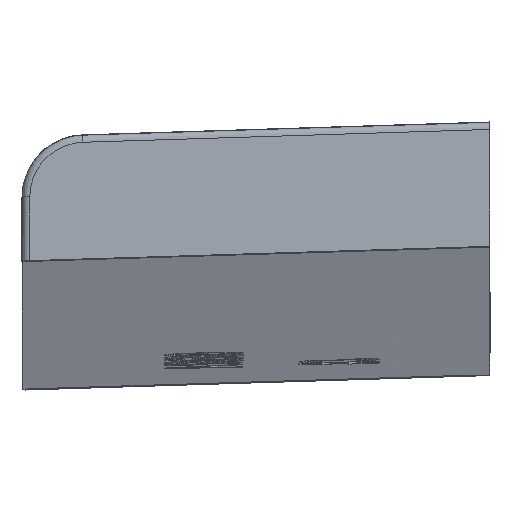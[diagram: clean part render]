
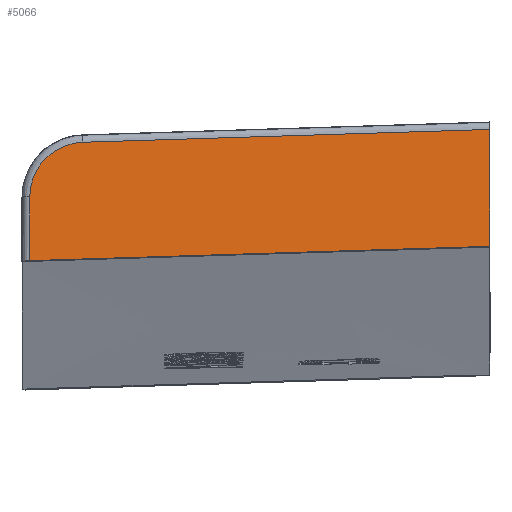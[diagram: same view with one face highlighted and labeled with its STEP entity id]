
A CAD part, left-side view. The second image highlights one B-rep face of the part: STEP entity #5066.
In plain terms, the highlighted planar face has unit normal (-0.999, 0, 0.043).
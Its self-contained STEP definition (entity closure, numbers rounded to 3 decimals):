
#116=PLANE('',#5180);
#389=FACE_OUTER_BOUND('',#686,.T.);
#686=EDGE_LOOP('',(#4523,#4524,#4525,#4526,#4527,#4528,#4529));
#936=LINE('',#14986,#1196);
#953=LINE('',#15724,#1213);
#954=LINE('',#15733,#1214);
#955=LINE('',#15734,#1215);
#1196=VECTOR('',#5562,10.);
#1213=VECTOR('',#5611,10.);
#1214=VECTOR('',#5612,10.);
#1215=VECTOR('',#5613,10.);
#1719=B_SPLINE_CURVE_WITH_KNOTS('',3,(#15604,#15605,#15606,#15607,#15608),
 .UNSPECIFIED.,.F.,.F.,(4,1,4),(-0.215,-0.123,0.),
 .UNSPECIFIED.);
#1725=B_SPLINE_CURVE_WITH_KNOTS('',3,(#15690,#15691,#15692,#15693),
 .UNSPECIFIED.,.F.,.F.,(4,4),(-1.047,-0.001),
 .UNSPECIFIED.);
#1727=B_SPLINE_CURVE_WITH_KNOTS('',3,(#15726,#15727,#15728,#15729,#15730,
#15731,#15732),.UNSPECIFIED.,.F.,.F.,(4,3,4),(0.01,0.05,
1.192),.UNSPECIFIED.);
#2211=VERTEX_POINT('',#14983);
#2212=VERTEX_POINT('',#14985);
#2246=VERTEX_POINT('',#15601);
#2247=VERTEX_POINT('',#15603);
#2251=VERTEX_POINT('',#15689);
#2252=VERTEX_POINT('',#15723);
#2253=VERTEX_POINT('',#15725);
#2952=EDGE_CURVE('',#2212,#2211,#936,.T.);
#3010=EDGE_CURVE('',#2246,#2247,#1719,.T.);
#3018=EDGE_CURVE('',#2247,#2251,#1725,.T.);
#3020=EDGE_CURVE('',#2252,#2246,#953,.T.);
#3021=EDGE_CURVE('',#2252,#2253,#1727,.T.);
#3022=EDGE_CURVE('',#2253,#2212,#954,.T.);
#3023=EDGE_CURVE('',#2211,#2251,#955,.T.);
#4523=ORIENTED_EDGE('',*,*,#3010,.F.);
#4524=ORIENTED_EDGE('',*,*,#3020,.F.);
#4525=ORIENTED_EDGE('',*,*,#3021,.T.);
#4526=ORIENTED_EDGE('',*,*,#3022,.T.);
#4527=ORIENTED_EDGE('',*,*,#2952,.T.);
#4528=ORIENTED_EDGE('',*,*,#3023,.T.);
#4529=ORIENTED_EDGE('',*,*,#3018,.F.);
#5066=ADVANCED_FACE('',(#389),#116,.F.);
#5180=AXIS2_PLACEMENT_3D('',#15722,#5609,#5610);
#5562=DIRECTION('',(0.043,0.,0.999));
#5609=DIRECTION('center_axis',(0.999,0.,
-0.043));
#5610=DIRECTION('ref_axis',(0.,1.,0.));
#5611=DIRECTION('',(0.043,0.,0.999));
#5612=DIRECTION('',(0.043,0.,0.999));
#5613=DIRECTION('',(0.043,0.,0.999));
#14983=CARTESIAN_POINT('',(-80.108,51.548,16.835));
#14985=CARTESIAN_POINT('',(-80.139,51.548,16.105));
#14986=CARTESIAN_POINT('',(-80.114,51.548,16.683));
#15601=CARTESIAN_POINT('',(-80.11,63.36,16.784));
#15603=CARTESIAN_POINT('',(-80.051,62.007,18.182));
#15604=CARTESIAN_POINT('Ctrl Pts',(-80.11,63.36,16.784));
#15605=CARTESIAN_POINT('Ctrl Pts',(-80.097,63.36,17.091));
#15606=CARTESIAN_POINT('Ctrl Pts',(-80.067,63.115,17.809));
#15607=CARTESIAN_POINT('Ctrl Pts',(-80.051,62.417,18.168));
#15608=CARTESIAN_POINT('Ctrl Pts',(-80.051,62.007,18.182));
#15689=CARTESIAN_POINT('',(-80.037,51.548,18.511));
#15690=CARTESIAN_POINT('Ctrl Pts',(-80.051,62.007,18.182));
#15691=CARTESIAN_POINT('Ctrl Pts',(-80.046,58.521,18.3));
#15692=CARTESIAN_POINT('Ctrl Pts',(-80.041,55.035,18.41));
#15693=CARTESIAN_POINT('Ctrl Pts',(-80.037,51.548,18.511));
#15722=CARTESIAN_POINT('Origin',(-79.96,61.543,20.308));
#15723=CARTESIAN_POINT('',(-80.18,63.36,15.144));
#15724=CARTESIAN_POINT('',(-80.058,63.36,18.019));
#15725=CARTESIAN_POINT('',(-80.164,51.548,15.512));
#15726=CARTESIAN_POINT('Ctrl Pts',(-80.18,63.36,15.144));
#15727=CARTESIAN_POINT('Ctrl Pts',(-80.18,63.227,15.149));
#15728=CARTESIAN_POINT('Ctrl Pts',(-80.18,63.093,15.153));
#15729=CARTESIAN_POINT('Ctrl Pts',(-80.18,62.96,15.158));
#15730=CARTESIAN_POINT('Ctrl Pts',(-80.174,59.156,15.286));
#15731=CARTESIAN_POINT('Ctrl Pts',(-80.169,55.353,15.404));
#15732=CARTESIAN_POINT('Ctrl Pts',(-80.164,51.548,15.512));
#15733=CARTESIAN_POINT('',(-80.14,51.548,16.091));
#15734=CARTESIAN_POINT('',(-80.14,51.548,16.091));
